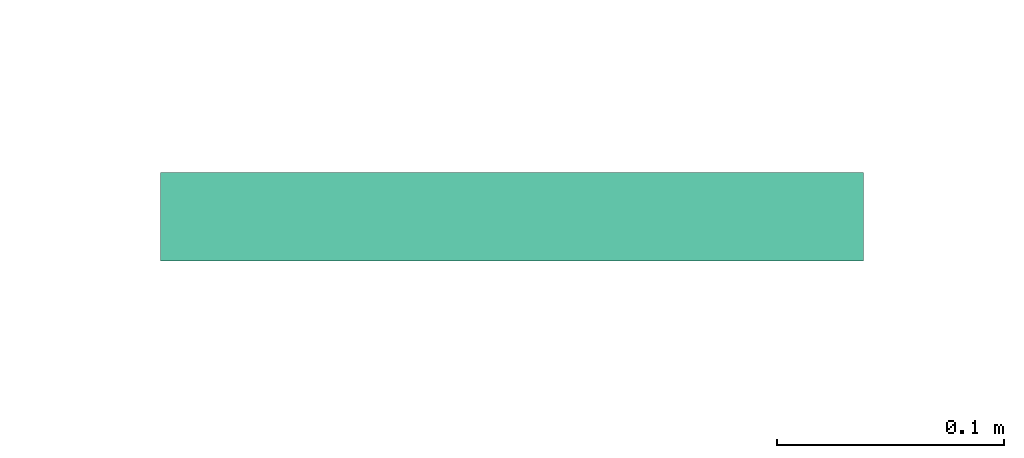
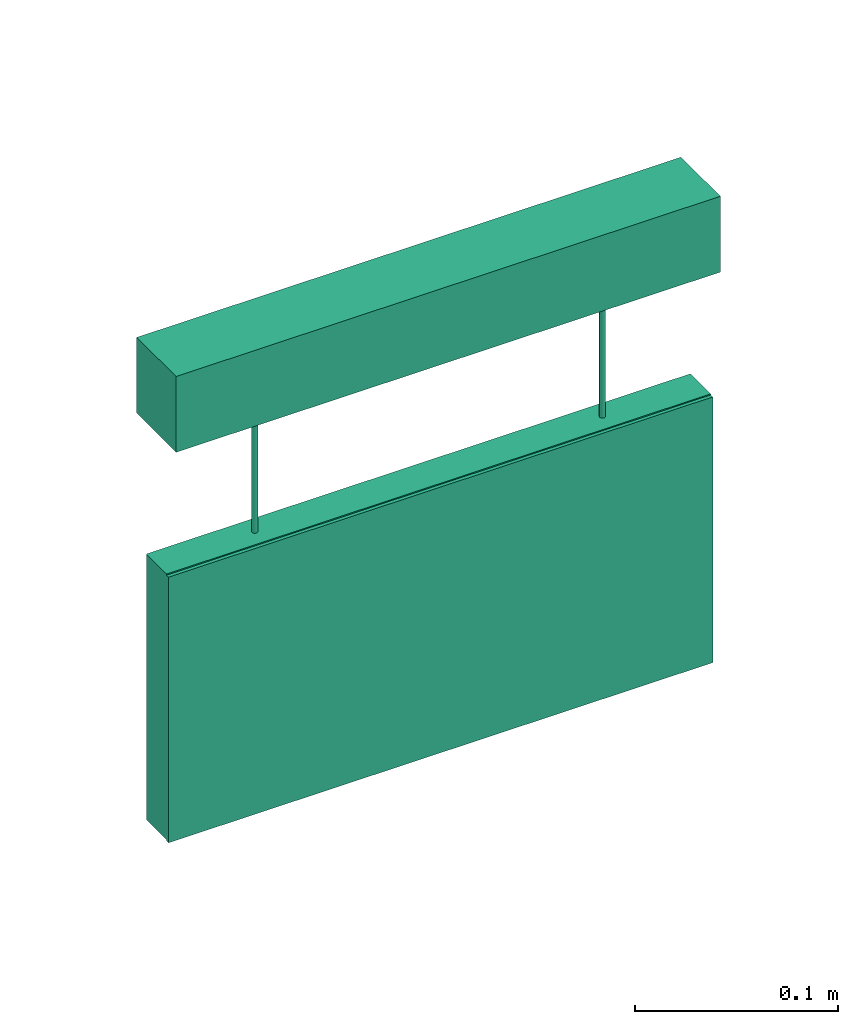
# One storey, part 2 of 4: 1 flow terminal.
"""IFC2X3 building model written with IfcOpenShell, lengths in millimetres."""

from ifc_helpers import new_model, entity, si_unit, converted_unit, derived_unit, direction, frame, frame_2d, origin, origin_2d_with_axis, place, context, subcontext, project, spatial, polyline, circle_curve, parameter, trimmed, segment, composite_curve, rectangle, circle, outline, extrude, source, transform, mapped, material, material_list, type_object, element, save


model = new_model("IFC2X3")

# Units and contexts
model_context = context("Model", 3, precision=0.01, world=frame((0.0, 4.29681676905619e-09, 0.0)), true_north=direction((4.01073788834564e-13, 1.0)))
plan_context = context("Plan", 3, precision=0.01, world=frame((0.0, 4.29681676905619e-09, 0.0)), true_north=direction((4.01073788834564e-13, 1.0)))
body_context = subcontext(model_context, "Body", "Model", "MODEL_VIEW")
ifc_project = project(units=[converted_unit("PLANEANGLEUNIT", "DEGREE", entity("IfcPositiveLengthMeasure", 0.0174532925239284), si_unit("PLANEANGLEUNIT", "RADIAN"), dimensions=[0, 0, 0, 0, 0, 0, 0]), si_unit("AREAUNIT", "SQUARE_METRE"), si_unit("LENGTHUNIT", "METRE", prefix="MILLI"), si_unit("MASSUNIT", "GRAM", prefix="KILO"), si_unit("POWERUNIT", "WATT"), si_unit("PRESSUREUNIT", "PASCAL"), si_unit("FORCEUNIT", "NEWTON", prefix="KILO"), si_unit("ELECTRICVOLTAGEUNIT", "VOLT"), si_unit("ELECTRICCURRENTUNIT", "AMPERE"), si_unit("THERMODYNAMICTEMPERATUREUNIT", "DEGREE_CELSIUS"), si_unit("TIMEUNIT", "SECOND"), si_unit("VOLUMEUNIT", "CUBIC_METRE"), derived_unit("LINEARVELOCITYUNIT", [(si_unit("LENGTHUNIT", "METRE"), 1), (si_unit("TIMEUNIT", "SECOND"), -1)]), derived_unit("VOLUMETRICFLOWRATEUNIT", [(si_unit("VOLUMEUNIT", "CUBIC_METRE"), 1), (si_unit("TIMEUNIT", "SECOND"), -1)]), derived_unit("THERMALTRANSMITTANCEUNIT", [(si_unit("POWERUNIT", "WATT"), 1), (si_unit("THERMODYNAMICTEMPERATUREUNIT", "KELVIN"), -1), (si_unit("AREAUNIT", "SQUARE_METRE"), -1)]), derived_unit("SOUNDPRESSUREUNIT", [(si_unit("PRESSUREUNIT", "PASCAL"), 1)])], contexts=[model_context, plan_context])

# Site, building, storey
site_placement = place(None, frame((0.0, -4.29681676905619e-09, 0.0), z_axis=(0.0, 0.0, 1.0), x_axis=(1.0, 0.0, 0.0)))
site = spatial("IfcSite", under=ifc_project, at=site_placement, Name="Default", CompositionType="ELEMENT")
building_placement = place(site_placement, frame((0.0, 4.29681676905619e-09, 0.0), z_axis=(0.0, 0.0, 1.0), x_axis=(1.0, 0.0, 0.0)))
building = spatial("IfcBuilding", under=site, at=building_placement, CompositionType="ELEMENT")
storey_placement = place(building_placement, frame((0.0, 0.0, 210900.0), z_axis=(0.0, 0.0, 1.0), x_axis=(1.0, 0.0, 0.0)))
storey = spatial("IfcBuildingStorey", under=building, at=storey_placement, Name="Nivå F", CompositionType="ELEMENT", Elevation=210900.0)

# Flow terminal
ifc_material_1 = material(Name="Light Source Hvit")
ifc_material_2 = material(Name="Light Source Grønn")
ifc_material_3 = material(Name="<Unnamed>")
ifc_material_list = material_list([ifc_material_1, ifc_material_2, ifc_material_3])
light_fixture_type = type_object("IfcLightFixtureType", Name="IB7334 Markeringslys ensidig 30 meter leseavstand wire:IB7334 Zumtobel Puresign/Consign 150 ASI NDA", PredefinedType="NOTDEFINED", material=ifc_material_list)
shared_shape = source(origin(), body_context, "Body", "SweptSolid", [
    extrude(outline(polyline([(-9.94071838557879, -40.8929275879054), (20.6582999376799, -40.8929275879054), (61.5512275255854, 0.0), (20.6582999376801, 40.8929275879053), (-9.94071838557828, 40.8929275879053), (17.4135315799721, 13.5386776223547), (-58.9067268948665, 13.5386776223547), (-58.9067268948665, -13.5386776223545), (17.4135315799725, -13.5386776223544), (-9.94071838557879, -40.8929275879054)])), frame((-68.0, 32.0, -204.02931218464), z_axis=(0.0, 1.0, 0.0), x_axis=(0.0, 0.0, -1.0)), (0.0, 0.0, 1.0), 2.0),
    extrude(outline(composite_curve([segment(trimmed(circle_curve(origin_2d_with_axis(), 70.0), [parameter(180.0)], [parameter(360.0)], True, "PARAMETER"), True, "CONTINUOUS"), segment(trimmed(circle_curve(origin_2d_with_axis(), 70.0), [parameter(0.0)], [parameter(180.0)], True, "PARAMETER"), True, "CONTINUOUS")], self_intersect=False), holes=[polyline([(60.2289772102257, 0.0), (19.3360496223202, -40.8929275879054), (-11.2629687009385, -40.8929275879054), (16.0912812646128, -13.5386776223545), (-60.2289772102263, -13.5386776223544), (-60.2289772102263, 13.5386776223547), (16.0912812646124, 13.5386776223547), (-11.262968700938, 40.8929275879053), (19.3360496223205, 40.8929275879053), (60.2289772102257, 0.0)])]), frame((-68.0, 32.0, -205.3515625), z_axis=(0.0, 1.0, 0.0), x_axis=(0.0, 0.0, -1.0)), (0.0, 0.0, 1.0), 2.0),
    extrude(outline(polyline([(-80.0, -155.0), (80.0, -155.0), (80.0, 155.0), (-80.0, 155.0), (-80.0, -155.0)]), holes=[polyline([(-46.0, 68.0), (-46.0, 110.0), (-34.0, 110.0), (-34.0, 80.0), (-2.58359213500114, 80.0), (26.0, 65.7082039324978), (26.0, 78.6028577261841), (8.91302546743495, 88.8550424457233), (15.0869745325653, 99.1449575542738), (38.0, 85.3971422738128), (38.0, 46.0), (36.9923017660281, 42.6717988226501), (27.2111025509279, 28.0), (14.0, 28.0), (14.0, 10.0), (2.0, 10.0), (2.0, 40.0), (22.2792226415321, 40.0), (-6.84828493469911, 58.204692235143), (-54.5419187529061, 29.5474658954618), (-60.8224348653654, 40.0), (-14.2226093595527, 68.0), (-46.0, 68.0)]), composite_curve([segment(trimmed(circle_curve(frame_2d((52.0, 42.0), x_axis=(0.0, -1.0)), 14.0), [parameter(3.05333249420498e-13)], [parameter(180.0)], True, "PARAMETER"), False, "CONTINUOUS"), segment(trimmed(circle_curve(frame_2d((52.0, 42.0), x_axis=(0.0, -1.0)), 14.0), [parameter(180.0)], [parameter(5.08888749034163e-14)], True, "PARAMETER"), False, "CONTINUOUS")], self_intersect=False), composite_curve([segment(trimmed(circle_curve(frame_2d((0.0, -68.0), x_axis=(0.0, -1.0)), 70.0), [parameter(3.05333249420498e-13)], [parameter(180.0)], True, "PARAMETER"), False, "CONTINUOUS"), segment(trimmed(circle_curve(frame_2d((0.0, -68.0), x_axis=(0.0, -1.0)), 70.0), [parameter(180.0)], [parameter(0.0)], True, "PARAMETER"), False, "CONTINUOUS")], self_intersect=False)]), frame((0.0, 32.0, -205.351562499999), z_axis=(0.0, 1.0, 0.0), x_axis=(0.0, 0.0, 1.0)), (0.0, 0.0, 1.0), 2.0),
    extrude(circle(Radius=14.0, at=origin_2d_with_axis()), frame((42.0, 32.0, -153.351562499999), z_axis=(0.0, 1.0, 0.0), x_axis=(-1.0, 0.0, 0.0)), (0.0, 0.0, 1.0), 2.0),
    extrude(outline(polyline([(32.7028994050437, -50.6303563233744), (44.7028994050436, -50.6303563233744), (44.7028994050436, -8.63035632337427), (12.9255087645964, -8.63035632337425), (59.5253342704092, 19.3696436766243), (53.2448181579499, 29.8221777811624), (5.55118433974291, 1.16495144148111), (-23.5763232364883, 19.3696436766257), (-3.29710059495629, 19.3696436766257), (-3.29710059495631, 49.3696436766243), (-15.2971005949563, 49.3696436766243), (-15.2971005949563, 31.3696436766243), (-28.5082031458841, 31.3696436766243), (-38.2894023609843, 16.6978448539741), (-39.2971005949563, 13.3696436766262), (-39.2971005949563, -26.0274985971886), (-16.3840751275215, -39.7753138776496), (-10.2101260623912, -29.4853987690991), (-27.2971005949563, -19.2332140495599), (-27.2971005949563, -6.33856025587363), (1.2864915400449, -20.6303563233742), (32.7028994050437, -20.6303563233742), (32.7028994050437, -50.6303563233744)])), frame((59.369643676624, 32.0, -206.648663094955), z_axis=(0.0, 1.0, 0.0), x_axis=(0.0, 0.0, -1.0)), (0.0, 0.0, 1.0), 2.0),
    extrude(circle(Radius=1.59910024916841, at=origin_2d_with_axis()), frame((-99.0444679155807, 22.0, -124.696846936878)), (0.0, 0.0, 1.0), 79.3452844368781),
    extrude(circle(Radius=1.59910024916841, at=origin_2d_with_axis()), frame((99.044467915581, 22.0, -124.696846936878), z_axis=(0.0, 0.0, 1.0), x_axis=(-1.0, 0.0, 0.0)), (0.0, 0.0, 1.0), 79.3452844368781),
    extrude(rectangle(XDim=310.0, YDim=38.8655790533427, at=origin_2d_with_axis()), frame((0.0, 22.0, -45.6796874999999), z_axis=(0.0, 0.0, 1.0), x_axis=(-1.0, 0.0, 0.0)), (0.0, 0.0, 1.0), 45.6596380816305),
    extrude(rectangle(XDim=310.0, YDim=20.0, at=frame_2d((-1.4210854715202e-14, -1.77635683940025e-15), x_axis=(1.0, 0.0))), frame((0.0, 22.0, -284.696846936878), z_axis=(0.0, 0.0, 1.0), x_axis=(-1.0, 0.0, 0.0)), (0.0, 0.0, 1.0), 160.0),
])
flow_terminal_placement = place(storey_placement, frame((522204.500000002, 450609.958241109, 2190.35156249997), z_axis=(0.0, 0.0, 1.0), x_axis=(-1.0, 0.0, 0.0)))
element("IfcFlowTerminal", 1, at=flow_terminal_placement, inside=storey, type_object=light_fixture_type, material=ifc_material_list, Name="IB7334 Markeringslys ensidig 30 meter leseavstand wire:IB7334 Zumtobel Puresign/Consign 150 ASI NDA", ObjectType="IB7334 Markeringslys ensidig 30 meter leseavstand wire:IB7334 Zumtobel Puresign/Consign 150 ASI NDA", context=body_context, shape_type="MappedRepresentation", body=[
    mapped(shared_shape, transform((0.0, 0.0, 0.0), scale=1.0)),
])

save(model, "model.ifc")
